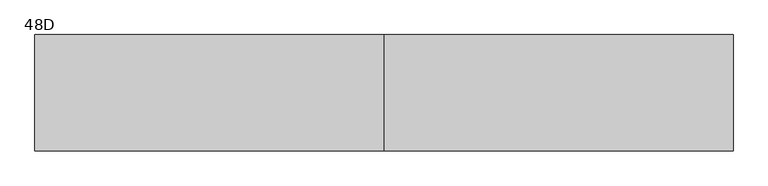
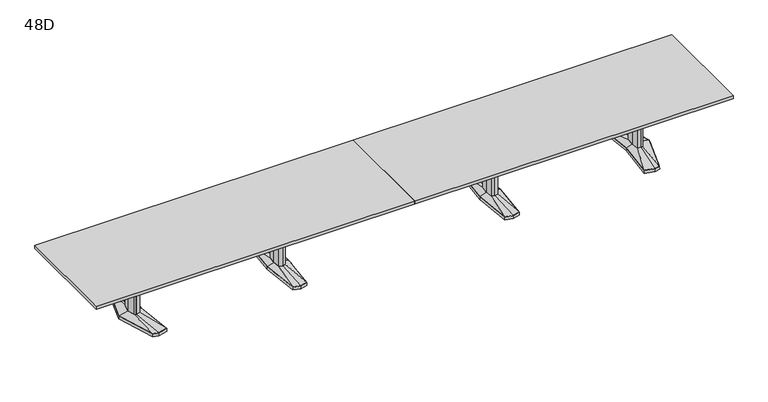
"""IFC4 building model written with IfcOpenShell, lengths in millimetres: furniture geometry, Coalesse_AM_Table_Conference_ETable2_Rectangular_24ft_AluminiumBase : 48D."""

from ifc_helpers import new_model, si_unit, frame, origin, place, context, project, spatial, polyline, outline, extrude, faceted_brep, source, transform, mapped, element, save
from ifc_brep_helpers import plane_surface, spline_surface, advanced_brep


def furniture_48d_89c9d34d(model_context):
    return source(origin(), model_context, "Body", "SolidModel", [
        faceted_brep([(1137.9666209, -433.8053819, 38.1), (1219.2, -455.556576, 38.1), (1300.4333791, -433.8053819, 38.1), (1338.2564774, 0.0, 38.1), (1300.4333791, 433.8053819, 38.1), (1219.2, 455.556576, 38.1), (1137.9666209, 433.8053819, 38.1), (1100.1435226, 0.0, 38.1), (1136.4817205, -435.0512063, 3.175), (1098.55, 0.0, 3.175), (1136.4817205, 435.0512063, 3.175), (1219.2, 457.2, 3.175), (1301.9182795, 435.0512063, 3.175), (1339.85, 0.0, 3.175), (1301.9182795, -435.0512063, 3.175), (1219.2, -457.2, 3.175), (1219.2, 429.2617927, 3.175), (1141.2323194, 408.3850278, 3.175), (1144.4980179, 382.9646737, 3.175), (1219.2, 402.9670094, 3.175), (1293.9019821, 382.9646737, 3.175), (1297.1676806, 408.3850278, 3.175), (1219.2, -429.2617927, 3.175), (1297.1676806, -408.3850278, 3.175), (1293.9019821, -382.9646737, 3.175), (1219.2, -402.9670094, 3.175), (1144.4980179, -382.9646737, 3.175), (1141.2323194, -408.3850278, 3.175), (1147.3425738, 114.6326257, 3.175), (1136.6573924, 0.0, 3.175), (1147.3425738, -114.6326257, 3.175), (1219.2, -133.8761372, 3.175), (1291.0574262, -114.6326257, 3.175), (1301.7426076, 0.0, 3.175), (1291.0574262, 114.6326257, 3.175), (1219.2, 133.8761372, 3.175), (1219.2, 429.2617927, 0.0), (1297.1676806, 408.3850278, 0.0), (1293.9019821, 382.9646737, 0.0), (1219.2, 402.9670094, 0.0), (1144.4980179, 382.9646737, 0.0), (1141.2323194, 408.3850278, 0.0), (1219.2, -429.2617927, 0.0), (1141.2323194, -408.3850278, 0.0), (1144.4980179, -382.9646737, 0.0), (1219.2, -402.9670094, 0.0), (1293.9019821, -382.9646737, 0.0), (1297.1676806, -408.3850278, 0.0), (1147.3425738, 114.6326257, 0.0), (1219.2, 133.8761372, 0.0), (1291.0574262, 114.6326257, 0.0), (1301.7426076, 0.0, 0.0), (1291.0574262, -114.6326257, 0.0), (1219.2, -133.8761372, 0.0), (1147.3425738, -114.6326257, 0.0), (1136.6573924, 0.0, 0.0)], [[[0, 1, 2, 3, 4, 5, 6, 7]], [[8, 9, 10, 11, 12, 13, 14, 15], [16, 17, 18, 19, 20, 21], [22, 23, 24, 25, 26, 27], [28, 29, 30, 31, 32, 33, 34, 35]], [[1, 0, 8, 15]], [[2, 1, 15, 14]], [[3, 2, 14, 13]], [[4, 3, 13, 12]], [[5, 4, 12, 11]], [[6, 5, 11, 10]], [[7, 6, 10, 9]], [[0, 7, 9, 8]], [[36, 37, 38, 39, 40, 41]], [[42, 43, 44, 45, 46, 47]], [[48, 49, 50, 51, 52, 53, 54, 55]], [[36, 41, 17, 16]], [[41, 40, 18, 17]], [[40, 39, 19, 18]], [[39, 38, 20, 19]], [[38, 37, 21, 20]], [[37, 36, 16, 21]], [[42, 47, 23, 22]], [[47, 46, 24, 23]], [[46, 45, 25, 24]], [[45, 44, 26, 25]], [[44, 43, 27, 26]], [[43, 42, 22, 27]], [[48, 55, 29, 28]], [[55, 54, 30, 29]], [[54, 53, 31, 30]], [[53, 52, 32, 31]], [[52, 51, 33, 32]], [[51, 50, 34, 33]], [[50, 49, 35, 34]], [[49, 48, 28, 35]]]),
        faceted_brep([(1182.8167166, 84.6900825, 698.5), (1174.9225513, 0.0, 698.5), (1182.8167166, -84.6900825, 698.5), (1219.2, -94.4335728, 698.5), (1255.5832834, -84.6900825, 698.5), (1263.4774487, 0.0, 698.5), (1255.5832834, 84.6900825, 698.5), (1219.2, 94.4335728, 698.5), (1182.8167166, 84.6900825, 63.5), (1219.2, 94.4335728, 63.5), (1255.5832834, 84.6900825, 63.5), (1263.4774487, 0.0, 63.5), (1255.5832834, -84.6900825, 63.5), (1219.2, -94.4335728, 63.5), (1182.8167166, -84.6900825, 63.5), (1174.9225513, 0.0, 63.5)], [[[0, 1, 2, 3, 4, 5, 6, 7]], [[8, 9, 10, 11, 12, 13, 14, 15]], [[1, 0, 8, 15]], [[2, 1, 15, 14]], [[3, 2, 14, 13]], [[4, 3, 13, 12]], [[5, 4, 12, 11]], [[6, 5, 11, 10]], [[7, 6, 10, 9]], [[0, 7, 9, 8]]]),
        advanced_brep(
        [(1182.8167166, 84.6900825, 63.5), (1174.9225513, 0.0, 63.5), (1182.8167166, -84.6900825, 63.5), (1219.2, -94.4335728, 63.5), (1255.5832834, -84.6900825, 63.5), (1263.4774487, 0.0, 63.5), (1255.5832834, 84.6900825, 63.5), (1219.2, 94.4335728, 63.5), (1137.9666209, 433.8053819, 38.1), (1219.2, 455.556576, 38.1), (1300.4333791, 433.8053819, 38.1), (1338.2564774, 0.0, 38.1), (1300.4333791, -433.8053819, 38.1), (1219.2, -455.556576, 38.1), (1137.9666209, -433.8053819, 38.1), (1100.1435226, 0.0, 38.1)],
        [
            (0, 1),
            (1, 2),
            (2, 3),
            (3, 4),
            (4, 5),
            (5, 6),
            (6, 7),
            (7, 0),
            (8, 9),
            (9, 10),
            (10, 11),
            (11, 12),
            (12, 13),
            (13, 14),
            (14, 15),
            (15, 8),
            (15, 1),
            (0, 8),
            (14, 2),
            (13, 3),
            (12, 4),
            (11, 5),
            (10, 6),
            (9, 7),
        ],
        [
            plane_surface(frame((1219.2, 0.0, 63.5), z_axis=(0.0, 0.0, 1.0000000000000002), x_axis=(-0.9659615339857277, -0.25868574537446, 0.0))),
            plane_surface(frame((1219.2, 0.0, 38.1), z_axis=(0.0, 0.0, -1.0000000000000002), x_axis=(-0.9659615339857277, -0.25868574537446, 0.0))),
            spline_surface(1, 1, [[(1137.9666209, 433.8053819, 38.1), (1182.8167166, 84.6900825, 63.5)], [(1100.1435226, 0.0, 38.1), (1174.9225513, 0.0, 63.5)]], [2, 2], [2, 2], [0.0, 1.0], [0.0, 1.0]),
            spline_surface(1, 1, [[(1100.1435226, 0.0, 38.1), (1174.9225513, 0.0, 63.5)], [(1137.9666209, -433.8053819, 38.1), (1182.8167166, -84.6900825, 63.5)]], [2, 2], [2, 2], [0.0, 1.0], [0.0, 1.0]),
            spline_surface(1, 1, [[(1137.9666209, -433.8053819, 38.1), (1182.8167166, -84.6900825, 63.5)], [(1219.2, -455.556576, 38.1), (1219.2, -94.4335728, 63.5)]], [2, 2], [2, 2], [0.0, 1.0], [0.0, 1.0]),
            spline_surface(1, 1, [[(1219.2, -455.556576, 38.1), (1219.2, -94.4335728, 63.5)], [(1300.4333791, -433.8053819, 38.1), (1255.5832834, -84.6900825, 63.5)]], [2, 2], [2, 2], [0.0, 1.0], [0.0, 1.0]),
            spline_surface(1, 1, [[(1300.4333791, -433.8053819, 38.1), (1255.5832834, -84.6900825, 63.5)], [(1338.2564774, 0.0, 38.1), (1263.4774487, 0.0, 63.5)]], [2, 2], [2, 2], [0.0, 1.0], [0.0, 1.0]),
            spline_surface(1, 1, [[(1338.2564774, 0.0, 38.1), (1263.4774487, 0.0, 63.5)], [(1300.4333791, 433.8053819, 38.1), (1255.5832834, 84.6900825, 63.5)]], [2, 2], [2, 2], [0.0, 1.0], [0.0, 1.0]),
            spline_surface(1, 1, [[(1300.4333791, 433.8053819, 38.1), (1255.5832834, 84.6900825, 63.5)], [(1219.2, 455.556576, 38.1), (1219.2, 94.4335728, 63.5)]], [2, 2], [2, 2], [0.0, 1.0], [0.0, 1.0]),
            spline_surface(1, 1, [[(1219.2, 455.556576, 38.1), (1219.2, 94.4335728, 63.5)], [(1137.9666209, 433.8053819, 38.1), (1182.8167166, 84.6900825, 63.5)]], [2, 2], [2, 2], [0.0, 1.0], [0.0, 1.0]),
        ],
        [
            (0, [[1, 2, 3, 4, 5, 6, 7, 8]]),
            (1, [[9, 10, 11, 12, 13, 14, 15, 16]]),
            (2, [[-16, 17, -1, 18]]),
            (3, [[-15, 19, -2, -17]]),
            (4, [[-14, 20, -3, -19]]),
            (5, [[-13, 21, -4, -20]]),
            (6, [[-12, 22, -5, -21]]),
            (7, [[-11, 23, -6, -22]]),
            (8, [[-10, 24, -7, -23]]),
            (9, [[-9, -18, -8, -24]]),
        ],
    ),
        faceted_brep([(-1300.4333791, -433.8053819, 38.1), (-1219.2, -455.556576, 38.1), (-1137.9666209, -433.8053819, 38.1), (-1100.1435226, 0.0, 38.1), (-1137.9666209, 433.8053819, 38.1), (-1219.2, 455.556576, 38.1), (-1300.4333791, 433.8053819, 38.1), (-1338.2564774, 0.0, 38.1), (-1301.9182795, -435.0512063, 3.175), (-1339.85, 0.0, 3.175), (-1301.9182795, 435.0512063, 3.175), (-1219.2, 457.2, 3.175), (-1136.4817205, 435.0512063, 3.175), (-1098.55, 0.0, 3.175), (-1136.4817205, -435.0512063, 3.175), (-1219.2, -457.2, 3.175), (-1219.2, 429.2617927, 3.175), (-1297.1676806, 408.3850278, 3.175), (-1293.9019821, 382.9646737, 3.175), (-1219.2, 402.9670094, 3.175), (-1144.4980179, 382.9646737, 3.175), (-1141.2323194, 408.3850278, 3.175), (-1219.2, -429.2617927, 3.175), (-1141.2323194, -408.3850278, 3.175), (-1144.4980179, -382.9646737, 3.175), (-1219.2, -402.9670094, 3.175), (-1293.9019821, -382.9646737, 3.175), (-1297.1676806, -408.3850278, 3.175), (-1291.0574262, 114.6326257, 3.175), (-1301.7426076, 0.0, 3.175), (-1291.0574262, -114.6326257, 3.175), (-1219.2, -133.8761372, 3.175), (-1147.3425738, -114.6326257, 3.175), (-1136.6573924, 0.0, 3.175), (-1147.3425738, 114.6326257, 3.175), (-1219.2, 133.8761372, 3.175), (-1219.2, 429.2617927, 0.0), (-1141.2323194, 408.3850278, 0.0), (-1144.4980179, 382.9646737, 0.0), (-1219.2, 402.9670094, 0.0), (-1293.9019821, 382.9646737, 0.0), (-1297.1676806, 408.3850278, 0.0), (-1219.2, -429.2617927, 0.0), (-1297.1676806, -408.3850278, 0.0), (-1293.9019821, -382.9646737, 0.0), (-1219.2, -402.9670094, 0.0), (-1144.4980179, -382.9646737, 0.0), (-1141.2323194, -408.3850278, 0.0), (-1291.0574262, 114.6326257, 0.0), (-1219.2, 133.8761372, 0.0), (-1147.3425738, 114.6326257, 0.0), (-1136.6573924, 0.0, 0.0), (-1147.3425738, -114.6326257, 0.0), (-1219.2, -133.8761372, 0.0), (-1291.0574262, -114.6326257, 0.0), (-1301.7426076, 0.0, 0.0)], [[[0, 1, 2, 3, 4, 5, 6, 7]], [[8, 9, 10, 11, 12, 13, 14, 15], [16, 17, 18, 19, 20, 21], [22, 23, 24, 25, 26, 27], [28, 29, 30, 31, 32, 33, 34, 35]], [[1, 0, 8, 15]], [[2, 1, 15, 14]], [[3, 2, 14, 13]], [[4, 3, 13, 12]], [[5, 4, 12, 11]], [[6, 5, 11, 10]], [[7, 6, 10, 9]], [[0, 7, 9, 8]], [[36, 37, 38, 39, 40, 41]], [[42, 43, 44, 45, 46, 47]], [[48, 49, 50, 51, 52, 53, 54, 55]], [[36, 41, 17, 16]], [[41, 40, 18, 17]], [[40, 39, 19, 18]], [[39, 38, 20, 19]], [[38, 37, 21, 20]], [[37, 36, 16, 21]], [[42, 47, 23, 22]], [[47, 46, 24, 23]], [[46, 45, 25, 24]], [[45, 44, 26, 25]], [[44, 43, 27, 26]], [[43, 42, 22, 27]], [[48, 55, 29, 28]], [[55, 54, 30, 29]], [[54, 53, 31, 30]], [[53, 52, 32, 31]], [[52, 51, 33, 32]], [[51, 50, 34, 33]], [[50, 49, 35, 34]], [[49, 48, 28, 35]]]),
        faceted_brep([(-1255.5832834, 84.6900825, 698.5), (-1263.4774487, 0.0, 698.5), (-1255.5832834, -84.6900825, 698.5), (-1219.2, -94.4335728, 698.5), (-1182.8167166, -84.6900825, 698.5), (-1174.9225513, 0.0, 698.5), (-1182.8167166, 84.6900825, 698.5), (-1219.2, 94.4335728, 698.5), (-1255.5832834, 84.6900825, 63.5), (-1219.2, 94.4335728, 63.5), (-1182.8167166, 84.6900825, 63.5), (-1174.9225513, 0.0, 63.5), (-1182.8167166, -84.6900825, 63.5), (-1219.2, -94.4335728, 63.5), (-1255.5832834, -84.6900825, 63.5), (-1263.4774487, 0.0, 63.5)], [[[0, 1, 2, 3, 4, 5, 6, 7]], [[8, 9, 10, 11, 12, 13, 14, 15]], [[1, 0, 8, 15]], [[2, 1, 15, 14]], [[3, 2, 14, 13]], [[4, 3, 13, 12]], [[5, 4, 12, 11]], [[6, 5, 11, 10]], [[7, 6, 10, 9]], [[0, 7, 9, 8]]]),
        advanced_brep(
        [(-1255.5832834, 84.6900825, 63.5), (-1263.4774487, 0.0, 63.5), (-1255.5832834, -84.6900825, 63.5), (-1219.2, -94.4335728, 63.5), (-1182.8167166, -84.6900825, 63.5), (-1174.9225513, 0.0, 63.5), (-1182.8167166, 84.6900825, 63.5), (-1219.2, 94.4335728, 63.5), (-1300.4333791, 433.8053819, 38.1), (-1219.2, 455.556576, 38.1), (-1137.9666209, 433.8053819, 38.1), (-1100.1435226, 0.0, 38.1), (-1137.9666209, -433.8053819, 38.1), (-1219.2, -455.556576, 38.1), (-1300.4333791, -433.8053819, 38.1), (-1338.2564774, 0.0, 38.1)],
        [
            (0, 1),
            (1, 2),
            (2, 3),
            (3, 4),
            (4, 5),
            (5, 6),
            (6, 7),
            (7, 0),
            (8, 9),
            (9, 10),
            (10, 11),
            (11, 12),
            (12, 13),
            (13, 14),
            (14, 15),
            (15, 8),
            (15, 1),
            (0, 8),
            (14, 2),
            (13, 3),
            (12, 4),
            (11, 5),
            (10, 6),
            (9, 7),
        ],
        [
            plane_surface(frame((-1219.2, 0.0, 63.5), z_axis=(0.0, 0.0, 1.0000000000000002), x_axis=(-0.9659615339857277, -0.25868574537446, 0.0))),
            plane_surface(frame((-1219.2, 0.0, 38.1), z_axis=(0.0, 0.0, -1.0000000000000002), x_axis=(-0.9659615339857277, -0.25868574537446, 0.0))),
            spline_surface(1, 1, [[(-1300.4333791, 433.8053819, 38.1), (-1255.5832834, 84.6900825, 63.5)], [(-1338.2564774, 0.0, 38.1), (-1263.4774487, 0.0, 63.5)]], [2, 2], [2, 2], [0.0, 1.0], [0.0, 1.0]),
            spline_surface(1, 1, [[(-1338.2564774, 0.0, 38.1), (-1263.4774487, 0.0, 63.5)], [(-1300.4333791, -433.8053819, 38.1), (-1255.5832834, -84.6900825, 63.5)]], [2, 2], [2, 2], [0.0, 1.0], [0.0, 1.0]),
            spline_surface(1, 1, [[(-1300.4333791, -433.8053819, 38.1), (-1255.5832834, -84.6900825, 63.5)], [(-1219.2, -455.556576, 38.1), (-1219.2, -94.4335728, 63.5)]], [2, 2], [2, 2], [0.0, 1.0], [0.0, 1.0]),
            spline_surface(1, 1, [[(-1219.2, -455.556576, 38.1), (-1219.2, -94.4335728, 63.5)], [(-1137.9666209, -433.8053819, 38.1), (-1182.8167166, -84.6900825, 63.5)]], [2, 2], [2, 2], [0.0, 1.0], [0.0, 1.0]),
            spline_surface(1, 1, [[(-1137.9666209, -433.8053819, 38.1), (-1182.8167166, -84.6900825, 63.5)], [(-1100.1435226, 0.0, 38.1), (-1174.9225513, 0.0, 63.5)]], [2, 2], [2, 2], [0.0, 1.0], [0.0, 1.0]),
            spline_surface(1, 1, [[(-1100.1435226, 0.0, 38.1), (-1174.9225513, 0.0, 63.5)], [(-1137.9666209, 433.8053819, 38.1), (-1182.8167166, 84.6900825, 63.5)]], [2, 2], [2, 2], [0.0, 1.0], [0.0, 1.0]),
            spline_surface(1, 1, [[(-1137.9666209, 433.8053819, 38.1), (-1182.8167166, 84.6900825, 63.5)], [(-1219.2, 455.556576, 38.1), (-1219.2, 94.4335728, 63.5)]], [2, 2], [2, 2], [0.0, 1.0], [0.0, 1.0]),
            spline_surface(1, 1, [[(-1219.2, 455.556576, 38.1), (-1219.2, 94.4335728, 63.5)], [(-1300.4333791, 433.8053819, 38.1), (-1255.5832834, 84.6900825, 63.5)]], [2, 2], [2, 2], [0.0, 1.0], [0.0, 1.0]),
        ],
        [
            (0, [[1, 2, 3, 4, 5, 6, 7, 8]]),
            (1, [[9, 10, 11, 12, 13, 14, 15, 16]]),
            (2, [[-16, 17, -1, 18]]),
            (3, [[-15, 19, -2, -17]]),
            (4, [[-14, 20, -3, -19]]),
            (5, [[-13, 21, -4, -20]]),
            (6, [[-12, 22, -5, -21]]),
            (7, [[-11, 23, -6, -22]]),
            (8, [[-10, 24, -7, -23]]),
            (9, [[-9, -18, -8, -24]]),
        ],
    ),
        faceted_brep([(2852.8994335, 455.5848221, 38.1), (2743.3218777, 426.2263816, 38.1), (2784.4851217, 0.0, 38.1), (2743.3218777, -426.2263816, 38.1), (2852.8994335, -455.5848221, 38.1), (2909.0257896, -440.5478297, 38.1), (3046.3371769, 0.0, 38.1), (2909.0257896, 440.5478297, 38.1), (2852.8994254, 457.2283104, 3.175), (2910.2811972, 441.8549756, 3.175), (3048.0, 0.0, 3.175), (2910.2811972, -441.8549756, 3.175), (2852.8994254, -457.2283104, 3.175), (2741.6125, -427.4118891, 3.175), (2782.8902356, 0.0, 3.175), (2741.6125, 427.4118891, 3.175), (2856.488865, 428.3273875, 3.175), (2751.4405728, 402.1057253, 3.175), (2759.559268, 377.985069, 3.175), (2860.0782966, 401.0699529, 3.175), (2910.6379225, 387.524361, 3.175), (2909.8318561, 414.0360954, 3.175), (2856.488865, -428.3273875, 3.175), (2909.8318561, -414.0360954, 3.175), (2910.6379225, -387.524361, 3.175), (2860.0782966, -401.0699529, 3.175), (2759.559268, -377.985069, 3.175), (2751.4405728, -402.1057253, 3.175), (2983.0841121, 0.0, 3.175), (2950.8147111, 120.4193755, 3.175), (2902.1674722, 133.471665, 3.175), (2822.2868026, 119.4176561, 3.175), (2811.1555966, 0.0, 3.175), (2822.2868026, -119.4176561, 3.175), (2902.1674722, -133.471665, 3.175), (2950.8147111, -120.4193755, 3.175), (2856.488865, 428.3273875, 0.0), (2909.8318561, 414.0360954, 0.0), (2910.6379225, 387.524361, 0.0), (2860.0782966, 401.0699529, 0.0), (2759.559268, 377.985069, 0.0), (2751.4405728, 402.1057253, 0.0), (2856.488865, -428.3273875, 0.0), (2751.4405728, -402.1057253, 0.0), (2759.559268, -377.985069, 0.0), (2860.0782966, -401.0699529, 0.0), (2910.6379225, -387.524361, 0.0), (2909.8318561, -414.0360954, 0.0), (2983.0841121, 0.0, 0.0), (2950.8147111, -120.4193755, 0.0), (2902.1674722, -133.471665, 0.0), (2822.2868026, -119.4176561, 0.0), (2811.1555966, 0.0, 0.0), (2822.2868026, 119.4176561, 0.0), (2902.1674722, 133.471665, 0.0), (2950.8147111, 120.4193755, 0.0)], [[[0, 1, 2, 3, 4, 5, 6, 7]], [[8, 9, 10, 11, 12, 13, 14, 15], [16, 17, 18, 19, 20, 21], [22, 23, 24, 25, 26, 27], [28, 29, 30, 31, 32, 33, 34, 35]], [[7, 9, 8, 0]], [[6, 10, 9, 7]], [[5, 11, 10, 6]], [[4, 12, 11, 5]], [[3, 13, 12, 4]], [[2, 14, 13, 3]], [[1, 15, 14, 2]], [[0, 8, 15, 1]], [[36, 37, 38, 39, 40, 41]], [[42, 43, 44, 45, 46, 47]], [[48, 49, 50, 51, 52, 53, 54, 55]], [[36, 16, 21, 37]], [[37, 21, 20, 38]], [[38, 20, 19, 39]], [[39, 19, 18, 40]], [[40, 18, 17, 41]], [[41, 17, 16, 36]], [[42, 22, 27, 43]], [[43, 27, 26, 44]], [[44, 26, 25, 45]], [[45, 25, 24, 46]], [[46, 24, 23, 47]], [[47, 23, 22, 42]], [[48, 28, 35, 49]], [[49, 35, 34, 50]], [[50, 34, 33, 51]], [[51, 33, 32, 52]], [[52, 32, 31, 53]], [[53, 31, 30, 54]], [[54, 30, 29, 55]], [[55, 29, 28, 48]]]),
        faceted_brep([(2943.6398336, 0.0, 698.5), (2919.7046046, 89.3188359, 698.5), (2902.8512484, 93.8406728, 698.5), (2900.4514011, 94.4845635, 698.5), (2857.523896, 86.9320037, 698.5), (2849.4207556, 0.0, 698.5), (2857.523896, -86.9320037, 698.5), (2900.4514011, -94.4845635, 698.5), (2902.8512484, -93.8406728, 698.5), (2919.7046046, -89.3188359, 698.5), (2943.6398336, 0.0, 63.5), (2919.7046046, -89.3188359, 63.5), (2902.8512484, -93.8406728, 63.5), (2900.4514011, -94.4845635, 63.5), (2857.523896, -86.9320037, 63.5), (2849.4207556, 0.0, 63.5), (2857.523896, 86.9320037, 63.5), (2900.4514011, 94.4845635, 63.5), (2902.8512484, 93.8406728, 63.5), (2919.7046046, 89.3188359, 63.5)], [[[0, 1, 2, 3, 4, 5, 6, 7, 8, 9]], [[10, 11, 12, 13, 14, 15, 16, 17, 18, 19]], [[9, 11, 10, 0]], [[8, 12, 11, 9]], [[7, 13, 12, 8]], [[6, 14, 13, 7]], [[5, 15, 14, 6]], [[4, 16, 15, 5]], [[3, 17, 16, 4]], [[2, 18, 17, 3]], [[1, 19, 18, 2]], [[0, 10, 19, 1]]]),
        advanced_brep(
        [(2900.4514011, 94.4845635, 63.5), (2857.523896, 86.9320037, 63.5), (2849.4207556, 0.0, 63.5), (2857.523896, -86.9320037, 63.5), (2900.4514011, -94.4845635, 63.5), (2919.7046046, -89.3188359, 63.5), (2943.6398336, 0.0, 63.5), (2919.7046046, 89.3188359, 63.5), (2852.8994335, 455.5848221, 38.1), (2909.0257896, 440.5478297, 38.1), (3046.3371769, 0.0, 38.1), (2909.0257896, -440.5478297, 38.1), (2852.8994335, -455.5848221, 38.1), (2743.3218777, -426.2263816, 38.1), (2784.4851217, 0.0, 38.1), (2743.3218777, 426.2263816, 38.1)],
        [
            (0, 1),
            (1, 2),
            (2, 3),
            (3, 4),
            (4, 5),
            (5, 6),
            (6, 7),
            (7, 0),
            (8, 9),
            (9, 10),
            (10, 11),
            (11, 12),
            (12, 13),
            (13, 14),
            (14, 15),
            (15, 8),
            (8, 0),
            (7, 9),
            (6, 10),
            (5, 11),
            (4, 12),
            (3, 13),
            (2, 14),
            (1, 15),
        ],
        [
            plane_surface(frame((2893.5525491, 0.0, 63.5), z_axis=(0.0, 0.0, 1.0), x_axis=(-0.25884244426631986, -0.9659195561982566, 0.0))),
            plane_surface(frame((2855.1645625, 0.0, 38.1), z_axis=(0.0, 0.0, -1.0), x_axis=(-0.25884244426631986, -0.9659195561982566, 0.0))),
            spline_surface(1, 1, [[(2852.8994335, 455.5848221, 38.1), (2909.0257896, 440.5478297, 38.1)], [(2900.4514011, 94.4845635, 63.5), (2919.7046046, 89.3188359, 63.5)]], [2, 2], [2, 2], [0.0, 1.0], [0.0, 1.0]),
            spline_surface(1, 1, [[(2909.0257896, 440.5478297, 38.1), (3046.3371769, 0.0, 38.1)], [(2919.7046046, 89.3188359, 63.5), (2943.6398336, 0.0, 63.5)]], [2, 2], [2, 2], [0.0, 1.0], [0.0, 1.0]),
            spline_surface(1, 1, [[(3046.3371769, 0.0, 38.1), (2909.0257896, -440.5478297, 38.1)], [(2943.6398336, 0.0, 63.5), (2919.7046046, -89.3188359, 63.5)]], [2, 2], [2, 2], [0.0, 1.0], [0.0, 1.0]),
            spline_surface(1, 1, [[(2909.0257896, -440.5478297, 38.1), (2852.8994335, -455.5848221, 38.1)], [(2919.7046046, -89.3188359, 63.5), (2900.4514011, -94.4845635, 63.5)]], [2, 2], [2, 2], [0.0, 1.0], [0.0, 1.0]),
            spline_surface(1, 1, [[(2852.8994335, -455.5848221, 38.1), (2743.3218777, -426.2263816, 38.1)], [(2900.4514011, -94.4845635, 63.5), (2857.523896, -86.9320037, 63.5)]], [2, 2], [2, 2], [0.0, 1.0], [0.0, 1.0]),
            spline_surface(1, 1, [[(2743.3218777, -426.2263816, 38.1), (2784.4851217, 0.0, 38.1)], [(2857.523896, -86.9320037, 63.5), (2849.4207556, 0.0, 63.5)]], [2, 2], [2, 2], [0.0, 1.0], [0.0, 1.0]),
            spline_surface(1, 1, [[(2784.4851217, 0.0, 38.1), (2743.3218777, 426.2263816, 38.1)], [(2849.4207556, 0.0, 63.5), (2857.523896, 86.9320037, 63.5)]], [2, 2], [2, 2], [0.0, 1.0], [0.0, 1.0]),
            spline_surface(1, 1, [[(2743.3218777, 426.2263816, 38.1), (2852.8994335, 455.5848221, 38.1)], [(2857.523896, 86.9320037, 63.5), (2900.4514011, 94.4845635, 63.5)]], [2, 2], [2, 2], [0.0, 1.0], [0.0, 1.0]),
        ],
        [
            (0, [[1, 2, 3, 4, 5, 6, 7, 8]]),
            (1, [[9, 10, 11, 12, 13, 14, 15, 16]]),
            (2, [[17, -8, 18, -9]]),
            (3, [[-18, -7, 19, -10]]),
            (4, [[-19, -6, 20, -11]]),
            (5, [[-20, -5, 21, -12]]),
            (6, [[-21, -4, 22, -13]]),
            (7, [[-22, -3, 23, -14]]),
            (8, [[-23, -2, 24, -15]]),
            (9, [[-24, -1, -17, -16]]),
        ],
    ),
        faceted_brep([(-2852.8994335, 455.5848221, 38.1), (-2909.0257896, 440.5478297, 38.1), (-3046.3371769, 0.0, 38.1), (-2909.0257896, -440.5478297, 38.1), (-2852.8994335, -455.5848221, 38.1), (-2743.3218777, -426.2263816, 38.1), (-2784.4851217, 0.0, 38.1), (-2743.3218777, 426.2263816, 38.1), (-2852.8994254, 457.2283104, 3.175), (-2741.6125, 427.4118891, 3.175), (-2782.8902356, 0.0, 3.175), (-2741.6125, -427.4118891, 3.175), (-2852.8994254, -457.2283104, 3.175), (-2910.2811972, -441.8549756, 3.175), (-3048.0, 0.0, 3.175), (-2910.2811972, 441.8549756, 3.175), (-2856.488865, 428.3273875, 3.175), (-2909.8318561, 414.0360954, 3.175), (-2910.6379225, 387.524361, 3.175), (-2860.0782966, 401.0699529, 3.175), (-2759.559268, 377.985069, 3.175), (-2751.4405728, 402.1057253, 3.175), (-2856.488865, -428.3273875, 3.175), (-2751.4405728, -402.1057253, 3.175), (-2759.559268, -377.985069, 3.175), (-2860.0782966, -401.0699529, 3.175), (-2910.6379225, -387.524361, 3.175), (-2909.8318561, -414.0360954, 3.175), (-2983.0841121, 0.0, 3.175), (-2950.8147111, -120.4193755, 3.175), (-2902.1674722, -133.471665, 3.175), (-2822.2868026, -119.4176561, 3.175), (-2811.1555966, 0.0, 3.175), (-2822.2868026, 119.4176561, 3.175), (-2902.1674722, 133.471665, 3.175), (-2950.8147111, 120.4193755, 3.175), (-2856.488865, 428.3273875, 0.0), (-2751.4405728, 402.1057253, 0.0), (-2759.559268, 377.985069, 0.0), (-2860.0782966, 401.0699529, 0.0), (-2910.6379225, 387.524361, 0.0), (-2909.8318561, 414.0360954, 0.0), (-2856.488865, -428.3273875, 0.0), (-2909.8318561, -414.0360954, 0.0), (-2910.6379225, -387.524361, 0.0), (-2860.0782966, -401.0699529, 0.0), (-2759.559268, -377.985069, 0.0), (-2751.4405728, -402.1057253, 0.0), (-2983.0841121, 0.0, 0.0), (-2950.8147111, 120.4193755, 0.0), (-2902.1674722, 133.471665, 0.0), (-2822.2868026, 119.4176561, 0.0), (-2811.1555966, 0.0, 0.0), (-2822.2868026, -119.4176561, 0.0), (-2902.1674722, -133.471665, 0.0), (-2950.8147111, -120.4193755, 0.0)], [[[0, 1, 2, 3, 4, 5, 6, 7]], [[8, 9, 10, 11, 12, 13, 14, 15], [16, 17, 18, 19, 20, 21], [22, 23, 24, 25, 26, 27], [28, 29, 30, 31, 32, 33, 34, 35]], [[1, 0, 8, 15]], [[2, 1, 15, 14]], [[3, 2, 14, 13]], [[4, 3, 13, 12]], [[5, 4, 12, 11]], [[6, 5, 11, 10]], [[7, 6, 10, 9]], [[0, 7, 9, 8]], [[36, 37, 38, 39, 40, 41]], [[42, 43, 44, 45, 46, 47]], [[48, 49, 50, 51, 52, 53, 54, 55]], [[36, 41, 17, 16]], [[41, 40, 18, 17]], [[40, 39, 19, 18]], [[39, 38, 20, 19]], [[38, 37, 21, 20]], [[37, 36, 16, 21]], [[42, 47, 23, 22]], [[47, 46, 24, 23]], [[46, 45, 25, 24]], [[45, 44, 26, 25]], [[44, 43, 27, 26]], [[43, 42, 22, 27]], [[48, 55, 29, 28]], [[55, 54, 30, 29]], [[54, 53, 31, 30]], [[53, 52, 32, 31]], [[52, 51, 33, 32]], [[51, 50, 34, 33]], [[50, 49, 35, 34]], [[49, 48, 28, 35]]]),
        faceted_brep([(-2943.6398336, 0.0, 698.5), (-2919.7046046, -89.3188359, 698.5), (-2902.8512484, -93.8406728, 698.5), (-2900.4514011, -94.4845635, 698.5), (-2857.523896, -86.9320037, 698.5), (-2849.4207556, 0.0, 698.5), (-2857.523896, 86.9320037, 698.5), (-2900.4514011, 94.4845635, 698.5), (-2902.8512484, 93.8406728, 698.5), (-2919.7046046, 89.3188359, 698.5), (-2943.6398336, 0.0, 63.5), (-2919.7046046, 89.3188359, 63.5), (-2902.8512484, 93.8406728, 63.5), (-2900.4514011, 94.4845635, 63.5), (-2857.523896, 86.9320037, 63.5), (-2849.4207556, 0.0, 63.5), (-2857.523896, -86.9320037, 63.5), (-2900.4514011, -94.4845635, 63.5), (-2902.8512484, -93.8406728, 63.5), (-2919.7046046, -89.3188359, 63.5)], [[[0, 1, 2, 3, 4, 5, 6, 7, 8, 9]], [[10, 11, 12, 13, 14, 15, 16, 17, 18, 19]], [[1, 0, 10, 19]], [[2, 1, 19, 18]], [[3, 2, 18, 17]], [[4, 3, 17, 16]], [[5, 4, 16, 15]], [[6, 5, 15, 14]], [[7, 6, 14, 13]], [[8, 7, 13, 12]], [[9, 8, 12, 11]], [[0, 9, 11, 10]]]),
        advanced_brep(
        [(-2900.4514011, 94.4845635, 63.5), (-2919.7046046, 89.3188359, 63.5), (-2943.6398336, 0.0, 63.5), (-2919.7046046, -89.3188359, 63.5), (-2900.4514011, -94.4845635, 63.5), (-2857.523896, -86.9320037, 63.5), (-2849.4207556, 0.0, 63.5), (-2857.523896, 86.9320037, 63.5), (-2852.8994335, 455.5848221, 38.1), (-2743.3218777, 426.2263816, 38.1), (-2784.4851217, 0.0, 38.1), (-2743.3218777, -426.2263816, 38.1), (-2852.8994335, -455.5848221, 38.1), (-2909.0257896, -440.5478297, 38.1), (-3046.3371769, 0.0, 38.1), (-2909.0257896, 440.5478297, 38.1)],
        [
            (0, 1),
            (1, 2),
            (2, 3),
            (3, 4),
            (4, 5),
            (5, 6),
            (6, 7),
            (7, 0),
            (8, 9),
            (9, 10),
            (10, 11),
            (11, 12),
            (12, 13),
            (13, 14),
            (14, 15),
            (15, 8),
            (15, 1),
            (0, 8),
            (14, 2),
            (13, 3),
            (12, 4),
            (11, 5),
            (10, 6),
            (9, 7),
        ],
        [
            plane_surface(frame((-2893.5525491, 0.0, 63.5), z_axis=(0.0, 0.0, 1.0), x_axis=(0.25884244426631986, -0.9659195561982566, 0.0))),
            plane_surface(frame((-2855.1645625, 0.0, 38.1), z_axis=(0.0, 0.0, -1.0), x_axis=(0.25884244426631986, -0.9659195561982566, 0.0))),
            spline_surface(1, 1, [[(-2852.8994335, 455.5848221, 38.1), (-2900.4514011, 94.4845635, 63.5)], [(-2909.0257896, 440.5478297, 38.1), (-2919.7046046, 89.3188359, 63.5)]], [2, 2], [2, 2], [0.0, 1.0], [0.0, 1.0]),
            spline_surface(1, 1, [[(-2909.0257896, 440.5478297, 38.1), (-2919.7046046, 89.3188359, 63.5)], [(-3046.3371769, 0.0, 38.1), (-2943.6398336, 0.0, 63.5)]], [2, 2], [2, 2], [0.0, 1.0], [0.0, 1.0]),
            spline_surface(1, 1, [[(-3046.3371769, 0.0, 38.1), (-2943.6398336, 0.0, 63.5)], [(-2909.0257896, -440.5478297, 38.1), (-2919.7046046, -89.3188359, 63.5)]], [2, 2], [2, 2], [0.0, 1.0], [0.0, 1.0]),
            spline_surface(1, 1, [[(-2909.0257896, -440.5478297, 38.1), (-2919.7046046, -89.3188359, 63.5)], [(-2852.8994335, -455.5848221, 38.1), (-2900.4514011, -94.4845635, 63.5)]], [2, 2], [2, 2], [0.0, 1.0], [0.0, 1.0]),
            spline_surface(1, 1, [[(-2852.8994335, -455.5848221, 38.1), (-2900.4514011, -94.4845635, 63.5)], [(-2743.3218777, -426.2263816, 38.1), (-2857.523896, -86.9320037, 63.5)]], [2, 2], [2, 2], [0.0, 1.0], [0.0, 1.0]),
            spline_surface(1, 1, [[(-2743.3218777, -426.2263816, 38.1), (-2857.523896, -86.9320037, 63.5)], [(-2784.4851217, 0.0, 38.1), (-2849.4207556, 0.0, 63.5)]], [2, 2], [2, 2], [0.0, 1.0], [0.0, 1.0]),
            spline_surface(1, 1, [[(-2784.4851217, 0.0, 38.1), (-2849.4207556, 0.0, 63.5)], [(-2743.3218777, 426.2263816, 38.1), (-2857.523896, 86.9320037, 63.5)]], [2, 2], [2, 2], [0.0, 1.0], [0.0, 1.0]),
            spline_surface(1, 1, [[(-2743.3218777, 426.2263816, 38.1), (-2857.523896, 86.9320037, 63.5)], [(-2852.8994335, 455.5848221, 38.1), (-2900.4514011, 94.4845635, 63.5)]], [2, 2], [2, 2], [0.0, 1.0], [0.0, 1.0]),
        ],
        [
            (0, [[1, 2, 3, 4, 5, 6, 7, 8]]),
            (1, [[9, 10, 11, 12, 13, 14, 15, 16]]),
            (2, [[-16, 17, -1, 18]]),
            (3, [[-15, 19, -2, -17]]),
            (4, [[-14, 20, -3, -19]]),
            (5, [[-13, 21, -4, -20]]),
            (6, [[-12, 22, -5, -21]]),
            (7, [[-11, 23, -6, -22]]),
            (8, [[-10, 24, -7, -23]]),
            (9, [[-9, -18, -8, -24]]),
        ],
    ),
        extrude(outline(polyline([(96.8375, 698.5), (103.1875, 698.5), (103.1875, 476.25), (-103.1875, 476.25), (-103.1875, 698.5), (-96.8375, 698.5), (-96.8375, 482.6), (96.8375, 482.6), (96.8375, 698.5)])), frame((1263.4774487, 0.0, 0.0), z_axis=(1.0, 0.0, 0.0), x_axis=(0.0, 1.0, 0.0)), (0.0, 0.0, 1.0), 1586.0850513),
        extrude(outline(polyline([(96.8375, 698.5), (103.1875, 698.5), (103.1875, 476.25), (-103.1875, 476.25), (-103.1875, 698.5), (-96.8375, 698.5), (-96.8375, 482.6), (96.8375, 482.6), (96.8375, 698.5)])), frame((-1174.9225513, 0.0, 0.0), z_axis=(1.0, 0.0, 0.0), x_axis=(0.0, 1.0, 0.0)), (0.0, 0.0, 1.0), 2349.8451026),
        extrude(outline(polyline([(3657.6, 609.6), (3657.6, -609.6), (0.0, -609.6), (0.0, 609.6), (3657.6, 609.6)])), frame((0.0, 0.0, 698.5), z_axis=(0.0, 0.0, 1.0), x_axis=(1.0, 0.0, 0.0)), (0.0, 0.0, 1.0), 38.1),
        extrude(outline(polyline([(0.0, 609.6), (0.0, -609.6), (-3657.6, -609.6), (-3657.6, 609.6), (0.0, 609.6)])), frame((0.0, 0.0, 698.5), z_axis=(0.0, 0.0, 1.0), x_axis=(1.0, 0.0, 0.0)), (0.0, 0.0, 1.0), 38.1),
        extrude(outline(polyline([(96.8375, 698.5), (103.1875, 698.5), (103.1875, 476.25), (-103.1875, 476.25), (-103.1875, 698.5), (-96.8375, 698.5), (-96.8375, 482.6), (96.8375, 482.6), (96.8375, 698.5)])), frame((-2849.5625, 0.0, 0.0), z_axis=(1.0, 0.0, 0.0), x_axis=(0.0, 1.0, 0.0)), (0.0, 0.0, 1.0), 1586.0850513),
    ])


if __name__ == "__main__":
    model = new_model("IFC4")
    model_context = context("Model", 3, world=origin())
    ifc_project = project(units=[si_unit("LENGTHUNIT", "METRE", prefix="MILLI")], contexts=[model_context])
    site = spatial("IfcSite", under=ifc_project)
    building = spatial("IfcBuilding", under=site)
    placement = place(None, origin())
    furniture_48d_shape = furniture_48d_89c9d34d(model_context)
    element("IfcFurniture", 1, ObjectType="Coalesse_AM_Table_Conference_ETable2_Rectangular_24ft_AluminiumBase : 48D", at=placement, inside=building, context=model_context, shape_type="MappedRepresentation", body=[
        mapped(furniture_48d_shape, transform((0.0, 0.0, 0.0), x_axis=(1.0, 0.0, 0.0), y_axis=(0.0, 1.0, 0.0), z_axis=(0.0, 0.0, 1.0))),
    ])
    save(model, "model.ifc")
